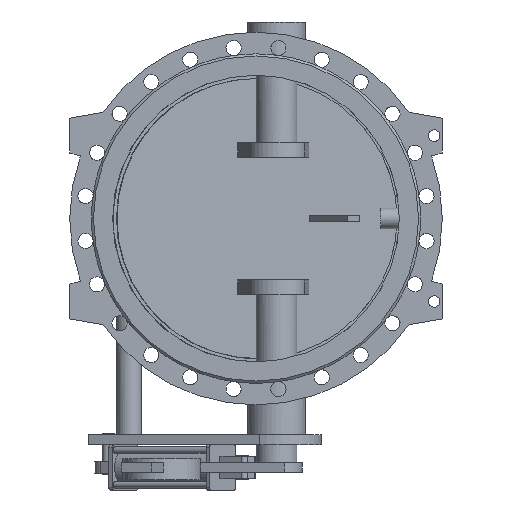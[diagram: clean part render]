
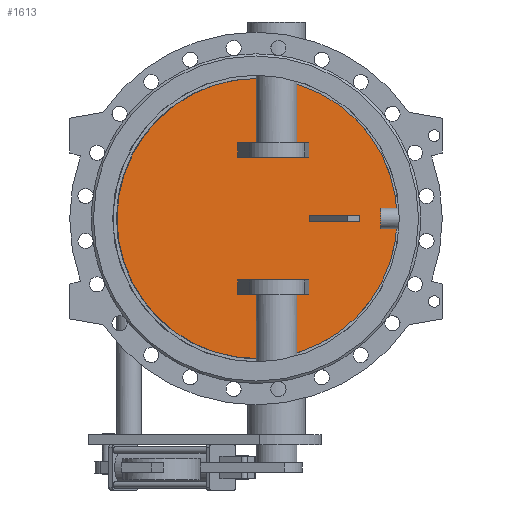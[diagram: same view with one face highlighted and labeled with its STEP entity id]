
A CAD part, front view. The second image highlights one B-rep face of the part: STEP entity #1613.
In plain terms, the highlighted planar face has unit normal (0.131, -0.991, 0).
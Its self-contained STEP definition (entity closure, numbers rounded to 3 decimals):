
#1613=ADVANCED_FACE('',(#3564,#3566,#3568,#3570),#3572,.T.);
#3564=FACE_BOUND('',#3565,.T.);
#3565=EDGE_LOOP('',(#5045));
#3566=FACE_BOUND('',#3567,.T.);
#3567=EDGE_LOOP('',(#5046,#5047,#5048,#5049));
#3568=FACE_BOUND('',#3569,.T.);
#3569=EDGE_LOOP('',(#5050,#5051,#5052,#5053));
#3570=FACE_BOUND('',#3571,.T.);
#3571=EDGE_LOOP('',(#5054,#5055,#5056,#5057));
#3572=PLANE('',#3573);
#3573=AXIS2_PLACEMENT_3D('',#3574,#3575,#3576);
#3574=CARTESIAN_POINT('',(-1.272,9.66,0.));
#3575=DIRECTION('',(0.131,-0.991,0.));
#3576=DIRECTION('',(0.,0.,-1.));
#5045=ORIENTED_EDGE('',*,*,#5716,.T.);
#5046=ORIENTED_EDGE('',*,*,#5740,.F.);
#5047=ORIENTED_EDGE('',*,*,#5741,.F.);
#5048=ORIENTED_EDGE('',*,*,#5742,.F.);
#5049=ORIENTED_EDGE('',*,*,#5743,.F.);
#5050=ORIENTED_EDGE('',*,*,#5744,.F.);
#5051=ORIENTED_EDGE('',*,*,#5745,.F.);
#5052=ORIENTED_EDGE('',*,*,#5746,.F.);
#5053=ORIENTED_EDGE('',*,*,#5747,.F.);
#5054=ORIENTED_EDGE('',*,*,#5748,.F.);
#5055=ORIENTED_EDGE('',*,*,#5749,.F.);
#5056=ORIENTED_EDGE('',*,*,#5750,.F.);
#5057=ORIENTED_EDGE('',*,*,#5751,.F.);
#5716=EDGE_CURVE('',#6712,#6712,#6713,.T.);
#5740=EDGE_CURVE('',#6754,#6755,#6756,.T.);
#5741=EDGE_CURVE('',#6757,#6754,#6758,.F.);
#5742=EDGE_CURVE('',#6759,#6757,#6760,.T.);
#5743=EDGE_CURVE('',#6755,#6759,#6761,.T.);
#5744=EDGE_CURVE('',#6762,#6763,#6764,.F.);
#5745=EDGE_CURVE('',#6765,#6762,#6766,.T.);
#5746=EDGE_CURVE('',#6767,#6765,#6768,.T.);
#5747=EDGE_CURVE('',#6763,#6767,#6769,.T.);
#5748=EDGE_CURVE('',#6770,#6771,#6772,.T.);
#5749=EDGE_CURVE('',#6773,#6770,#6774,.F.);
#5750=EDGE_CURVE('',#6775,#6773,#6776,.F.);
#5751=EDGE_CURVE('',#6771,#6775,#6777,.F.);
#6712=VERTEX_POINT('',#11728);
#6713=B_SPLINE_CURVE_WITH_KNOTS('',3,
(#11729,#11730,#11731,#11732,#11733,#11734,#11735,#11736,#11737,#11738,#11739,#11740,
#11741,#11742,#11743,#11744,#11745,#11746,#11747,#11748,#11749,#11750,#11751,#11752,
#11753,#11754,#11755,#11756,#11757,#11758,#11759,#11760,#11761,#11762,#11763,#11764,
#11765,#11766,#11767,#11768,#11769,#11770,#11771,#11772,#11773,#11774,#11775,#11776,
#11777,#11778,#11779),
.UNSPECIFIED.,.T.,.F.,
(4,1,1,1,1,1,1,1,1,1,1,1,1,1,1,1,1,1,1,1,1,1,1,1,1,1,1,1,1,1,1,1,1,1,1,1,1,1,1,1,
1,1,1,1,1,1,1,1,4),
(0.,0.021,0.042,0.063,0.084,0.105,
0.126,0.147,0.168,0.189,0.211,
0.232,0.253,0.274,0.295,0.316,
0.337,0.358,0.379,0.4,0.421,
0.442,0.463,0.484,0.505,0.527,
0.548,0.569,0.59,0.611,0.632,
0.653,0.674,0.695,0.716,0.737,
0.758,0.779,0.8,0.821,0.842,
0.864,0.885,0.906,0.927,0.948,
0.969,0.986,1.),
.UNSPECIFIED.);
#6754=VERTEX_POINT('',#12442);
#6755=VERTEX_POINT('',#12443);
#6756=LINE('',#12444,#12445);
#6757=VERTEX_POINT('',#12447);
#6758=LINE('',#12448,#12449);
#6759=VERTEX_POINT('',#12451);
#6760=LINE('',#12452,#12453);
#6761=LINE('',#12455,#12456);
#6762=VERTEX_POINT('',#12458);
#6763=VERTEX_POINT('',#12459);
#6764=LINE('',#12460,#12461);
#6765=VERTEX_POINT('',#12463);
#6766=LINE('',#12464,#12465);
#6767=VERTEX_POINT('',#12467);
#6768=LINE('',#12468,#12469);
#6769=LINE('',#12471,#12472);
#6770=VERTEX_POINT('',#12474);
#6771=VERTEX_POINT('',#12475);
#6772=LINE('',#12476,#12477);
#6773=VERTEX_POINT('',#12479);
#6774=LINE('',#12480,#12481);
#6775=VERTEX_POINT('',#12483);
#6776=LINE('',#12484,#12485);
#6777=LINE('',#12487,#12488);
#11728=CARTESIAN_POINT('',(2.611,10.171,342.));
#11729=CARTESIAN_POINT('',(2.611,10.171,342.));
#11730=CARTESIAN_POINT('',(-12.418,8.193,342.));
#11731=CARTESIAN_POINT('',(-42.51,4.231,340.014));
#11732=CARTESIAN_POINT('',(-86.92,-1.616,331.113));
#11733=CARTESIAN_POINT('',(-129.828,-7.265,316.412));
#11734=CARTESIAN_POINT('',(-170.446,-12.612,296.163));
#11735=CARTESIAN_POINT('',(-208.026,-17.56,270.738));
#11736=CARTESIAN_POINT('',(-241.92,-22.022,240.578));
#11737=CARTESIAN_POINT('',(-271.535,-25.921,206.212));
#11738=CARTESIAN_POINT('',(-296.353,-29.188,168.242));
#11739=CARTESIAN_POINT('',(-315.942,-31.767,127.332));
#11740=CARTESIAN_POINT('',(-329.961,-33.613,84.197));
#11741=CARTESIAN_POINT('',(-338.164,-34.693,39.592));
#11742=CARTESIAN_POINT('',(-340.41,-34.988,-5.705));
#11743=CARTESIAN_POINT('',(-336.659,-34.495,-50.903));
#11744=CARTESIAN_POINT('',(-326.975,-33.22,-95.211));
#11745=CARTESIAN_POINT('',(-311.529,-31.186,-137.856));
#11746=CARTESIAN_POINT('',(-290.589,-28.429,-178.093));
#11747=CARTESIAN_POINT('',(-264.52,-24.997,-215.217));
#11748=CARTESIAN_POINT('',(-233.777,-20.95,-248.58));
#11749=CARTESIAN_POINT('',(-198.896,-16.358,-277.598));
#11750=CARTESIAN_POINT('',(-160.486,-11.301,-301.76));
#11751=CARTESIAN_POINT('',(-119.22,-5.868,-320.644));
#11752=CARTESIAN_POINT('',(-75.818,-0.154,-333.917));
#11753=CARTESIAN_POINT('',(-31.043,5.741,-341.346));
#11754=CARTESIAN_POINT('',(14.323,11.713,-342.801));
#11755=CARTESIAN_POINT('',(59.482,17.658,-338.255));
#11756=CARTESIAN_POINT('',(103.645,23.473,-327.789));
#11757=CARTESIAN_POINT('',(146.037,29.054,-311.587));
#11758=CARTESIAN_POINT('',(185.916,34.304,-289.934));
#11759=CARTESIAN_POINT('',(222.585,39.131,-263.21));
#11760=CARTESIAN_POINT('',(255.403,43.452,-231.884));
#11761=CARTESIAN_POINT('',(283.798,47.19,-196.505));
#11762=CARTESIAN_POINT('',(307.273,50.281,-157.691));
#11763=CARTESIAN_POINT('',(325.42,52.67,-116.122));
#11764=CARTESIAN_POINT('',(337.922,54.316,-72.524));
#11765=CARTESIAN_POINT('',(344.561,55.19,-27.66));
#11766=CARTESIAN_POINT('',(345.222,55.277,17.688));
#11767=CARTESIAN_POINT('',(339.893,54.575,62.727));
#11768=CARTESIAN_POINT('',(328.667,53.097,106.67));
#11769=CARTESIAN_POINT('',(311.739,50.869,148.75));
#11770=CARTESIAN_POINT('',(289.405,47.928,188.231));
#11771=CARTESIAN_POINT('',(262.053,44.327,224.422));
#11772=CARTESIAN_POINT('',(230.16,40.129,256.692));
#11773=CARTESIAN_POINT('',(194.294,35.407,284.466));
#11774=CARTESIAN_POINT('',(155.122,30.25,307.238));
#11775=CARTESIAN_POINT('',(113.213,24.732,324.688));
#11776=CARTESIAN_POINT('',(71.88,19.291,335.775));
#11777=CARTESIAN_POINT('',(34.719,14.398,341.04));
#11778=CARTESIAN_POINT('',(12.424,11.463,342.));
#11779=CARTESIAN_POINT('',(2.611,10.171,342.));
#12442=CARTESIAN_POINT('',(234.102,40.647,-7.5));
#12443=CARTESIAN_POINT('',(234.102,40.647,7.5));
#12444=CARTESIAN_POINT('',(234.102,40.647,-7.5));
#12445=VECTOR('',#12446,1.);
#12446=DIRECTION('',(0.,0.,1.));
#12447=CARTESIAN_POINT('',(130.,26.942,-7.5));
#12448=CARTESIAN_POINT('',(234.102,40.647,-7.5));
#12449=VECTOR('',#12450,1.);
#12450=DIRECTION('',(-0.991,-0.131,0.));
#12451=CARTESIAN_POINT('',(130.,26.942,7.5));
#12452=CARTESIAN_POINT('',(130.,26.942,7.5));
#12453=VECTOR('',#12454,1.);
#12454=DIRECTION('',(0.,0.,-1.));
#12455=CARTESIAN_POINT('',(234.102,40.647,7.5));
#12456=VECTOR('',#12457,1.);
#12457=DIRECTION('',(-0.991,-0.131,0.));
#12458=CARTESIAN_POINT('',(-44.007,4.034,-185.));
#12459=CARTESIAN_POINT('',(129.407,26.864,-185.));
#12460=CARTESIAN_POINT('',(129.407,26.864,-185.));
#12461=VECTOR('',#12462,1.);
#12462=DIRECTION('',(-0.991,-0.131,0.));
#12463=CARTESIAN_POINT('',(-44.007,4.034,-150.));
#12464=CARTESIAN_POINT('',(-44.007,4.034,-150.));
#12465=VECTOR('',#12466,1.);
#12466=DIRECTION('',(0.,0.,-1.));
#12467=CARTESIAN_POINT('',(129.407,26.864,-150.));
#12468=CARTESIAN_POINT('',(129.407,26.864,-150.));
#12469=VECTOR('',#12470,1.);
#12470=DIRECTION('',(-0.991,-0.131,0.));
#12471=CARTESIAN_POINT('',(129.407,26.864,-185.));
#12472=VECTOR('',#12473,1.);
#12473=DIRECTION('',(0.,0.,1.));
#12474=CARTESIAN_POINT('',(129.407,26.864,185.));
#12475=CARTESIAN_POINT('',(-44.007,4.034,185.));
#12476=CARTESIAN_POINT('',(129.407,26.864,185.));
#12477=VECTOR('',#12478,1.);
#12478=DIRECTION('',(-0.991,-0.131,0.));
#12479=CARTESIAN_POINT('',(129.407,26.864,150.));
#12480=CARTESIAN_POINT('',(129.407,26.864,185.));
#12481=VECTOR('',#12482,1.);
#12482=DIRECTION('',(0.,0.,-1.));
#12483=CARTESIAN_POINT('',(-44.007,4.034,150.));
#12484=CARTESIAN_POINT('',(129.407,26.864,150.));
#12485=VECTOR('',#12486,1.);
#12486=DIRECTION('',(-0.991,-0.131,0.));
#12487=CARTESIAN_POINT('',(-44.007,4.034,150.));
#12488=VECTOR('',#12489,1.);
#12489=DIRECTION('',(0.,0.,1.));
